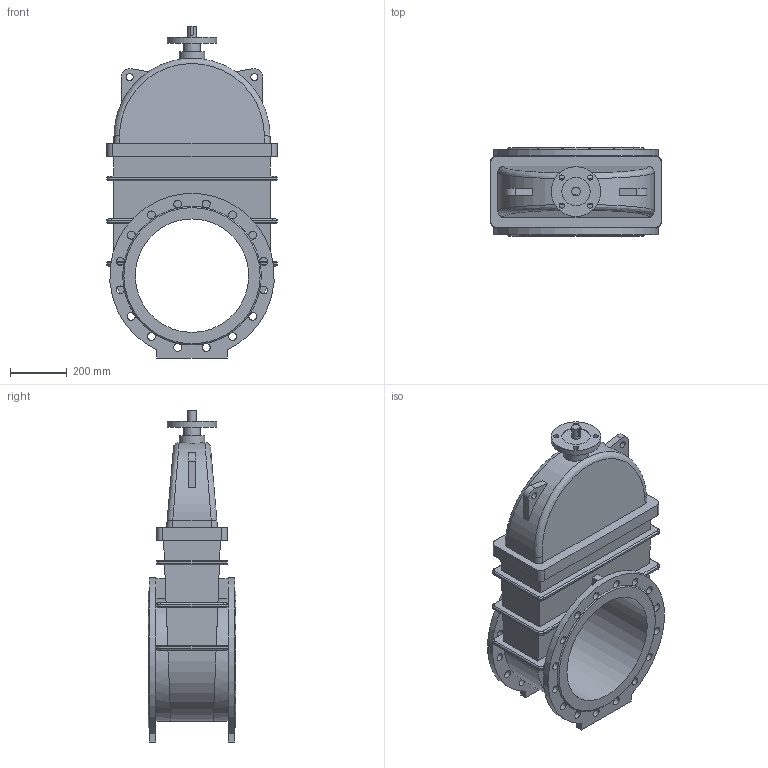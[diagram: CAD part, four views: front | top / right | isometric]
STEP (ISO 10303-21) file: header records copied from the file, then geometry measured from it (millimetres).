
FILE_DESCRIPTION(('STEP AP203'), '1');
FILE_NAME('Çàäâèæêà 47GVA.Z DN400 PN10 áåç èñïîëíèò. ìåõ.', '', ('UNSPECIFIED'), ('UNSPECIFIED'), 'ASCON STEP Converter 1.6', 'ASCON Math Kernel', '');
FILE_SCHEMA(('CONFIG_CONTROL_DESIGN'));
Length unit declared in the file: millimetre
Bounding box: 600 x 310 x 1170 mm (x, y, z)
Volume: 74938529.2 mm3; surface area: 2622552.6 mm2
Topology: 1 solids, 1 shells, 242 faces, 708 edges, 454 vertices
Faces by surface type: cylinder 113, plane 101, bspline 26, cone 2
Full cylindrical faces by diameter (mm): 18 x4, 25 x2, 28 x32, 30 x1, 60 x1, 90 x1, 100 x1, 175 x1, 400 x1
Entity records: 14394 total; most frequent: CARTESIAN_POINT 6244, ORIENTED_EDGE 1324, DIRECTION 1211, EDGE_CURVE 662, AXIS2_PLACEMENT_3D 462, VERTEX_POINT 454, EDGE_LOOP 352, FACE_BOUND 295
